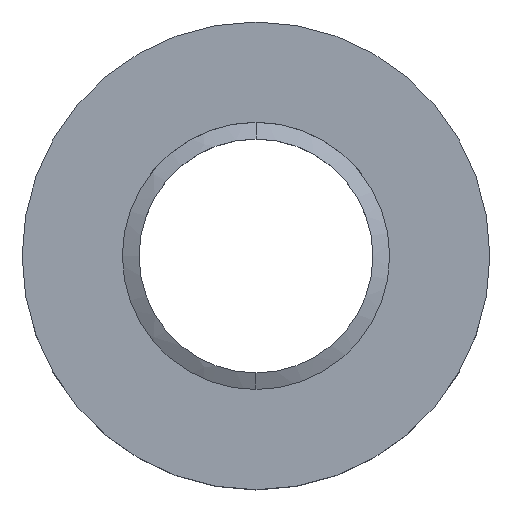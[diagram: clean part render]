
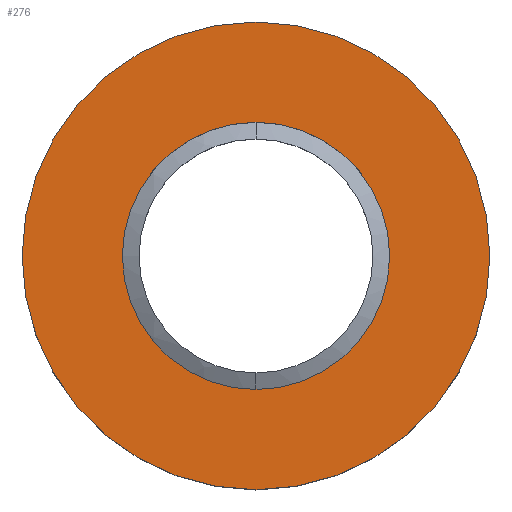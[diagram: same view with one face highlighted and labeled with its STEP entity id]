
A CAD part, top view. The second image highlights one B-rep face of the part: STEP entity #276.
In plain terms, the highlighted planar face has unit normal (0, 0, 1).
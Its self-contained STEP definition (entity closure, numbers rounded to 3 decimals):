
#11 = ORIENTED_EDGE ( 'NONE', *, *, #41, .F. ) ;
#28 = VERTEX_POINT ( 'NONE', #498 ) ;
#31 = EDGE_CURVE ( 'NONE', #262, #28, #499, .T. ) ;
#41 = EDGE_CURVE ( 'NONE', #384, #268, #300, .T. ) ;
#98 = EDGE_LOOP ( 'NONE', ( #228, #235 ) ) ;
#109 = FACE_BOUND ( 'NONE', #275, .T. ) ;
#110 = FACE_OUTER_BOUND ( 'NONE', #98, .T. ) ;
#111 = PLANE ( 'NONE',  #112 ) ;
#112 = AXIS2_PLACEMENT_3D ( 'NONE', #113, #114, #117 ) ;
#113 = CARTESIAN_POINT ( 'NONE',  ( 0., 6., 0. ) ) ;
#114 = DIRECTION ( 'NONE',  ( 0., 0., -1. ) ) ;
#117 = DIRECTION ( 'NONE',  ( -1., 0., 0. ) ) ;
#210 = EDGE_CURVE ( 'NONE', #268, #384, #530, .T. ) ;
#228 = ORIENTED_EDGE ( 'NONE', *, *, #420, .T. ) ;
#235 = ORIENTED_EDGE ( 'NONE', *, *, #31, .T. ) ;
#262 = VERTEX_POINT ( 'NONE', #477 ) ;
#268 = VERTEX_POINT ( 'NONE', #520 ) ;
#271 = ORIENTED_EDGE ( 'NONE', *, *, #210, .F. ) ;
#275 = EDGE_LOOP ( 'NONE', ( #11, #271 ) ) ;
#276 = ADVANCED_FACE ( 'NONE', ( #109, #110 ), #111, .F. ) ;
#300 = CIRCLE ( 'NONE', #301, 6. ) ;
#301 = AXIS2_PLACEMENT_3D ( 'NONE', #302, #303, #304 ) ;
#302 = CARTESIAN_POINT ( 'NONE',  ( 0., 0., 0. ) ) ;
#303 = DIRECTION ( 'NONE',  ( 0., 0., 1. ) ) ;
#304 = DIRECTION ( 'NONE',  ( 1., 0., 0. ) ) ;
#336 = CARTESIAN_POINT ( 'NONE',  ( 6., 0., 0. ) ) ;
#355 = CIRCLE ( 'NONE', #356, 10.5 ) ;
#356 = AXIS2_PLACEMENT_3D ( 'NONE', #357, #358, #359 ) ;
#357 = CARTESIAN_POINT ( 'NONE',  ( 0., 0., 0. ) ) ;
#358 = DIRECTION ( 'NONE',  ( 0., 0., 1. ) ) ;
#359 = DIRECTION ( 'NONE',  ( 1., 0., 0. ) ) ;
#384 = VERTEX_POINT ( 'NONE', #336 ) ;
#420 = EDGE_CURVE ( 'NONE', #28, #262, #355, .T. ) ;
#477 = CARTESIAN_POINT ( 'NONE',  ( -10.5, 0., 0. ) ) ;
#498 = CARTESIAN_POINT ( 'NONE',  ( 10.5, 0., 0. ) ) ;
#499 = CIRCLE ( 'NONE', #500, 10.5 ) ;
#500 = AXIS2_PLACEMENT_3D ( 'NONE', #501, #502, #503 ) ;
#501 = CARTESIAN_POINT ( 'NONE',  ( 0., 0., 0. ) ) ;
#502 = DIRECTION ( 'NONE',  ( 0., 0., 1. ) ) ;
#503 = DIRECTION ( 'NONE',  ( 1., 0., 0. ) ) ;
#520 = CARTESIAN_POINT ( 'NONE',  ( -6., 0., 0. ) ) ;
#530 = CIRCLE ( 'NONE', #531, 6. ) ;
#531 = AXIS2_PLACEMENT_3D ( 'NONE', #532, #533, #534 ) ;
#532 = CARTESIAN_POINT ( 'NONE',  ( 0., 0., 0. ) ) ;
#533 = DIRECTION ( 'NONE',  ( 0., 0., 1. ) ) ;
#534 = DIRECTION ( 'NONE',  ( 1., 0., 0. ) ) ;
